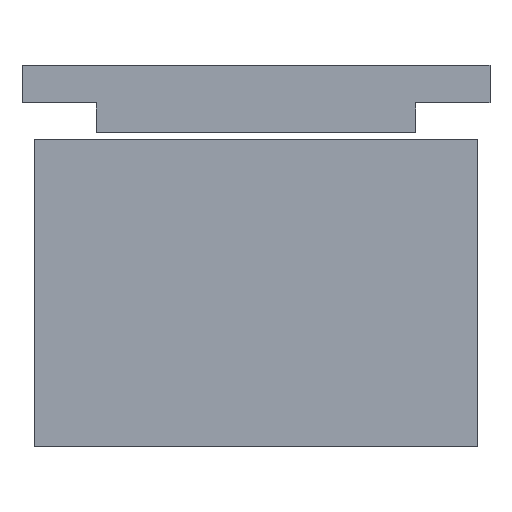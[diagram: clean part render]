
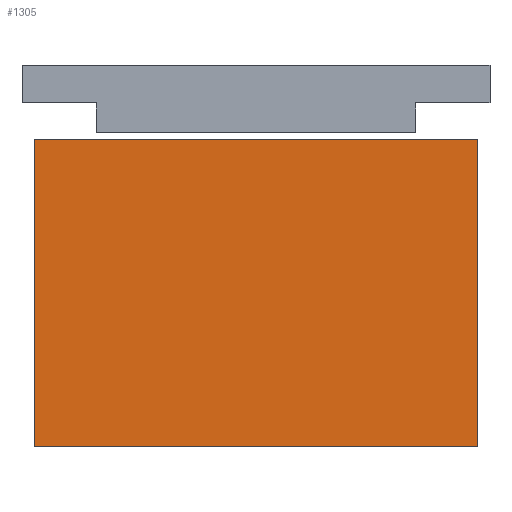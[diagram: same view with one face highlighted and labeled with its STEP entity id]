
A CAD part, left-side view. The second image highlights one B-rep face of the part: STEP entity #1305.
In plain terms, the highlighted planar face has unit normal (-1, 0, 0).
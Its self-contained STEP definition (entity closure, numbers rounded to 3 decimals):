
#40 = DIRECTION ( 'NONE',  ( 0., 0., -1. ) ) ;
#337 = AXIS2_PLACEMENT_3D ( 'NONE', #1076, #856, #823 ) ;
#391 = VERTEX_POINT ( 'NONE', #1896 ) ;
#468 = ORIENTED_EDGE ( 'NONE', *, *, #1104, .T. ) ;
#601 = LINE ( 'NONE', #2596, #1234 ) ;
#713 = CARTESIAN_POINT ( 'NONE',  ( -56., -35.5, 0. ) ) ;
#741 = CARTESIAN_POINT ( 'NONE',  ( -56., 35.5, 49.3 ) ) ;
#813 = CARTESIAN_POINT ( 'NONE',  ( -56., -35.5, 49.3 ) ) ;
#823 = DIRECTION ( 'NONE',  ( 0., 0., -1. ) ) ;
#856 = DIRECTION ( 'NONE',  ( 1., 0., 0. ) ) ;
#866 = EDGE_LOOP ( 'NONE', ( #468, #1845, #2389, #3155 ) ) ;
#869 = VERTEX_POINT ( 'NONE', #2353 ) ;
#986 = DIRECTION ( 'NONE',  ( 0., -1., 0. ) ) ;
#1062 = VERTEX_POINT ( 'NONE', #741 ) ;
#1076 = CARTESIAN_POINT ( 'NONE',  ( -56., -35.5, 49.3 ) ) ;
#1104 = EDGE_CURVE ( 'NONE', #2422, #869, #3178, .T. ) ;
#1162 = LINE ( 'NONE', #2347, #2066 ) ;
#1234 = VECTOR ( 'NONE', #2346, 1000. ) ;
#1305 = ADVANCED_FACE ( 'NONE', ( #2743 ), #2871, .F. ) ;
#1337 = EDGE_CURVE ( 'NONE', #391, #869, #1162, .T. ) ;
#1623 = CARTESIAN_POINT ( 'NONE',  ( -56., 35.5, 0. ) ) ;
#1845 = ORIENTED_EDGE ( 'NONE', *, *, #1337, .F. ) ;
#1896 = CARTESIAN_POINT ( 'NONE',  ( -56., -35.5, 49.3 ) ) ;
#1935 = LINE ( 'NONE', #813, #2452 ) ;
#2066 = VECTOR ( 'NONE', #40, 1000. ) ;
#2247 = EDGE_CURVE ( 'NONE', #1062, #391, #1935, .T. ) ;
#2301 = VECTOR ( 'NONE', #986, 1000. ) ;
#2346 = DIRECTION ( 'NONE',  ( 0., 0., -1. ) ) ;
#2347 = CARTESIAN_POINT ( 'NONE',  ( -56., -35.5, 49.3 ) ) ;
#2353 = CARTESIAN_POINT ( 'NONE',  ( -56., -35.5, 0. ) ) ;
#2389 = ORIENTED_EDGE ( 'NONE', *, *, #2247, .F. ) ;
#2422 = VERTEX_POINT ( 'NONE', #1623 ) ;
#2452 = VECTOR ( 'NONE', #3041, 1000. ) ;
#2563 = EDGE_CURVE ( 'NONE', #1062, #2422, #601, .T. ) ;
#2596 = CARTESIAN_POINT ( 'NONE',  ( -56., 35.5, 49.3 ) ) ;
#2743 = FACE_OUTER_BOUND ( 'NONE', #866, .T. ) ;
#2871 = PLANE ( 'NONE',  #337 ) ;
#3041 = DIRECTION ( 'NONE',  ( 0., -1., 0. ) ) ;
#3155 = ORIENTED_EDGE ( 'NONE', *, *, #2563, .T. ) ;
#3178 = LINE ( 'NONE', #713, #2301 ) ;
